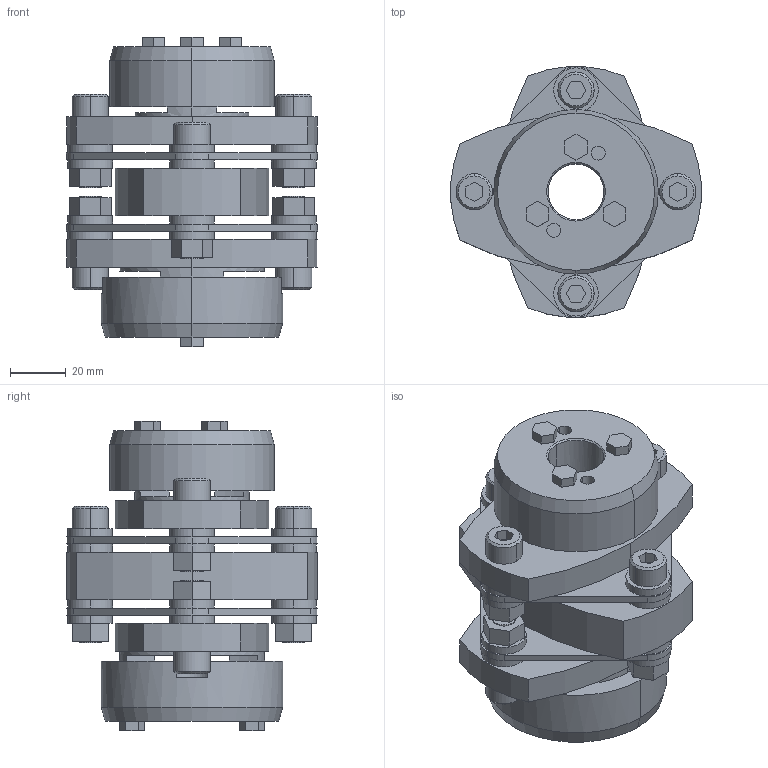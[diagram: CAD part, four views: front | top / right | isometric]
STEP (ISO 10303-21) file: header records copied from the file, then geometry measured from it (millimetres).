
FILE_DESCRIPTION((''),'2;1');
FILE_NAME('LCD-90T7-20×30.stp','2011-09-12T09:47:25',(''),(''),'AutoCAD STEP 2000i','AutoCAD 2000i',', , ');
FILE_SCHEMA(('CONFIG_CONTROL_DESIGN'));
Length unit declared in the file: millimetre
Products named in the file (7): LCD-90T7-19×30; 忣兜1; LC90T7-T030; LC90T7-T025; LC90T7-T019-1; LC90T7-T019; LCD90-ITA
Assembly tree (6 placements, depth 2):
  LCD-90T7-19×30
    忣兜1
    LC90T7-T030
    LC90T7-T025
    LC90T7-T019-1
    LC90T7-T019
    LCD90-ITA
Bounding box: 90 x 89.94 x 111 mm (x, y, z)
Volume: 277350.4 mm3; surface area: 74734 mm2
Topology: 1 solids, 1 shells, 317 faces, 774 edges, 508 vertices
Faces by surface type: plane 171, cylinder 122, cone 24
Entity records: 9595 total; most frequent: DIRECTION 1710, CARTESIAN_POINT 1606, ORIENTED_EDGE 1548, EDGE_CURVE 774, AXIS2_PLACEMENT_3D 612, VERTEX_POINT 508, VECTOR 486, LINE 486
